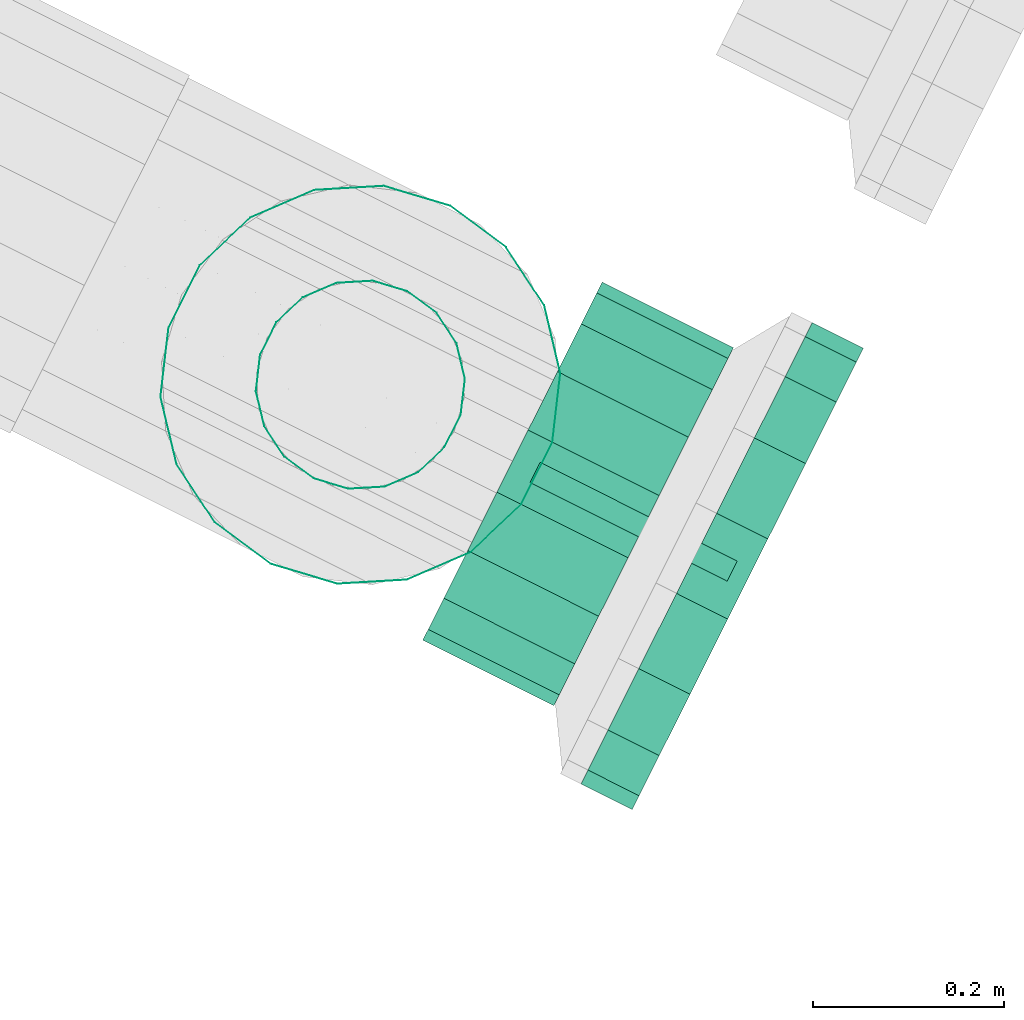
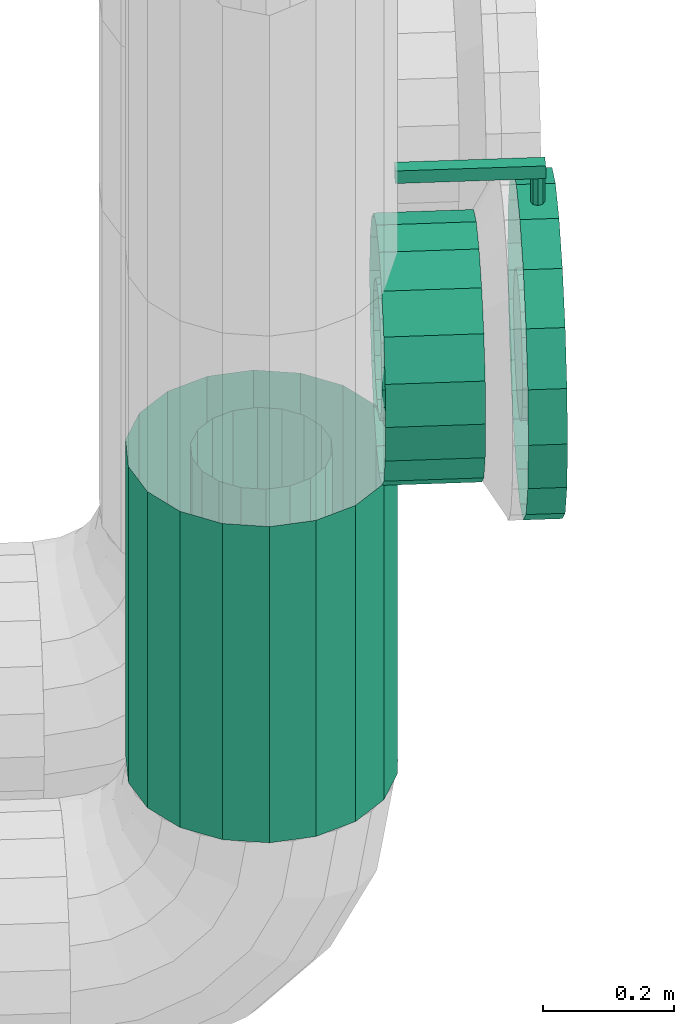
# One storey, part 7 of 11: 2 flow segments, 1 flow controller.
"""IFC2X3 building model written with IfcOpenShell, lengths in metres."""

from ifc_helpers import new_model, si_unit, derived_unit, direction, frame, origin, place, context, subcontext, project, spatial, face_set, surface_model, source, transform, mapped, material, type_object, type_shapes, element, save


model = new_model("IFC2X3")

# Units and contexts
model_context = context("Model", 3, precision=5.2338327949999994e-05, world=origin(), true_north=direction((0.0, 1.0)))
body_context = subcontext(model_context, "Body", "Model", "MODEL_VIEW")
ifc_project = project(units=[si_unit("LENGTHUNIT", "METRE"), si_unit("AREAUNIT", "SQUARE_METRE"), si_unit("VOLUMEUNIT", "CUBIC_METRE"), si_unit("MASSUNIT", "GRAM", prefix="KILO"), si_unit("PLANEANGLEUNIT", "RADIAN"), derived_unit("THERMALTRANSMITTANCEUNIT", [(si_unit("MASSUNIT", "GRAM", prefix="KILO"), 1), (si_unit("THERMODYNAMICTEMPERATUREUNIT", "KELVIN"), -1), (si_unit("TIMEUNIT", "SECOND"), -3)])], contexts=[model_context])

# Site, building, storey
site_placement = place(None, frame((0.0, 0.0, 0.0), z_axis=(0.0, 0.0, 1.0), x_axis=(0.8939966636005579, -0.4480736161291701, 0.0)))
site = spatial("IfcSite", under=ifc_project, at=site_placement, Name="Default", CompositionType="ELEMENT")
building_placement = place(site_placement, origin())
building = spatial("IfcBuilding", under=site, at=building_placement, CompositionType="ELEMENT")
storey_placement = place(building_placement, frame((0.0, 0.0, -2.7499999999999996)))
storey = spatial("IfcBuildingStorey", under=building, at=storey_placement, Name="1. Untergeschoss", CompositionType="ELEMENT", Elevation=-2.7499999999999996)

# Flow segment
ifc_material = material(Name="IfcSurfaceStyle #9317")
distribution_element_type_1 = type_object("IfcDistributionElementType", Name="Stahlrohr nach DIN 2448 860810:Stahlrohr nach DIN 2448 860810", material=ifc_material)
shared_shape_1 = source(origin(), body_context, "Body", "SurfaceModel", [
    surface_model("IfcFaceBasedSurfaceModel", [(0.9162699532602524, 7.436758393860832, -1.7739999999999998), (0.8788016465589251, 7.430151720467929, -1.7739999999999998), (0.8788016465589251, 7.430151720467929, -1.1831073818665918), (0.916269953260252, 7.436758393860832, -1.1831073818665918), (0.8458525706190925, 7.411128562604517, -1.7739999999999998), (0.845852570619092, 7.411128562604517, -1.1831073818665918), (0.821396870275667, 7.381983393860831, -1.7739999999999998), (0.821396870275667, 7.381983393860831, -1.1831073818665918), (0.8083842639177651, 7.346231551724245, -1.7739999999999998), (0.8083842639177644, 7.3462315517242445, -1.1831073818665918), (0.808384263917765, 7.3081852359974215, -1.7739999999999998), (0.808384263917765, 7.30818523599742, -1.1831073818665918), (0.8213968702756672, 7.272433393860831, -1.7739999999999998), (0.8213968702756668, 7.272433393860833, -1.1831073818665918), (0.8458525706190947, 7.243288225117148, -1.7739999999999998), (0.8458525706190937, 7.243288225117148, -1.1831073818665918), (0.8788016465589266, 7.224265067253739, -1.7739999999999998), (0.878801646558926, 7.224265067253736, -1.1831073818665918), (0.9162699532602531, 7.217658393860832, -1.7739999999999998), (0.9162699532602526, 7.21765839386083, -1.1831073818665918), (0.9537382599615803, 7.224265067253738, -1.7739999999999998), (0.9537382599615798, 7.224265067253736, -1.1831073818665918), (0.9866873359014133, 7.243288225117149, -1.7739999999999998), (0.9866873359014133, 7.243288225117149, -1.1831073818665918), (1.0111430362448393, 7.272433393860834, -1.7739999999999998), (1.0111430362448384, 7.272433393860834, -1.1831073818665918), (1.0241556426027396, 7.308185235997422, -1.7739999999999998), (1.0241556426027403, 7.3081852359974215, -1.1831073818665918), (1.02415564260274, 7.346231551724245, -1.7739999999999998), (1.02415564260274, 7.346231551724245, -1.1831073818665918), (1.0111430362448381, 7.381983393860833, -1.7739999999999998), (1.0111430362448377, 7.381983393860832, -1.1831073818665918), (0.9866873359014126, 7.411128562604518, -1.7739999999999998), (0.9866873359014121, 7.411128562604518, -1.1831073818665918), (0.953738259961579, 7.43015172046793, -1.7739999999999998), (0.953738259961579, 7.430151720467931, -1.1831073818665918), (0.9162699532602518, 7.536758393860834, -1.7739999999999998), (0.8445996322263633, 7.524120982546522, -1.7739999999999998), (0.8445996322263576, 7.52412098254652, -1.1831073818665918), (0.9162699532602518, 7.536758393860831, -1.1831073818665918), (0.7815738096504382, 7.487733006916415, -1.7739999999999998), (0.7815738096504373, 7.487733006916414, -1.1831073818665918), (0.7347943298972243, 7.43198339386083, -1.7739999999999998), (0.7347943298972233, 7.431983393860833, -1.1831073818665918), (0.7099034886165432, 7.363596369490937, -1.7739999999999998), (0.7099034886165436, 7.363596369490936, -1.1831073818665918), (0.7099034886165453, 7.290820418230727, -1.7739999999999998), (0.7099034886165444, 7.290820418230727, -1.1831073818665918), (0.7347943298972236, 7.2224333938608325, -1.7739999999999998), (0.7347943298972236, 7.222433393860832, -1.1831073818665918), (0.7815738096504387, 7.16668378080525, -1.7739999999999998), (0.7815738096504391, 7.16668378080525, -1.1831073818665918), (0.8445996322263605, 7.130295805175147, -1.7739999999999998), (0.8445996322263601, 7.1302958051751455, -1.1831073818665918), (0.9162699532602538, 7.117658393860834, -1.7739999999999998), (0.9162699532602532, 7.117658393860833, -1.1831073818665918), (0.987940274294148, 7.130295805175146, -1.7739999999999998), (0.9879402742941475, 7.130295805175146, -1.1831073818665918), (1.0509660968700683, 7.16668378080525, -1.7739999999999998), (1.050966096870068, 7.1666837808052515, -1.1831073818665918), (1.0977455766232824, 7.222433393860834, -1.7739999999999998), (1.0977455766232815, 7.222433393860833, -1.1831073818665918), (1.122636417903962, 7.290820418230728, -1.7739999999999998), (1.1226364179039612, 7.290820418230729, -1.1831073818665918), (1.1226364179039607, 7.363596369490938, -1.7739999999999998), (1.1226364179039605, 7.363596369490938, -1.1831073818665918), (1.097745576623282, 7.4319833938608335, -1.7739999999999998), (1.097745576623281, 7.4319833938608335, -1.1831073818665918), (1.0509660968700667, 7.487733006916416, -1.7739999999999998), (1.0509660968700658, 7.487733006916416, -1.1831073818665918), (0.987940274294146, 7.52412098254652, -1.7739999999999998), (0.9879402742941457, 7.52412098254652, -1.1831073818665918)], [face_set([[[0, 1, 2, 3]], [[1, 4, 5, 2]], [[4, 6, 7, 5]], [[6, 8, 9, 7]], [[8, 10, 11, 9]], [[10, 12, 13, 11]], [[12, 14, 15, 13]], [[14, 16, 17, 15]], [[16, 18, 19, 17]], [[18, 20, 21, 19]], [[20, 22, 23, 21]], [[22, 24, 25, 23]], [[24, 26, 27, 25]], [[26, 28, 29, 27]], [[28, 30, 31, 29]], [[30, 32, 33, 31]], [[32, 34, 35, 33]], [[34, 0, 3, 35]], [[36, 37, 38, 39]], [[37, 40, 41, 38]], [[40, 42, 43, 41]], [[42, 44, 45, 43]], [[44, 46, 47, 45]], [[46, 48, 49, 47]], [[48, 50, 51, 49]], [[50, 52, 53, 51]], [[52, 54, 55, 53]], [[54, 56, 57, 55]], [[56, 58, 59, 57]], [[58, 60, 61, 59]], [[60, 62, 63, 61]], [[62, 64, 65, 63]], [[64, 66, 67, 65]], [[66, 68, 69, 67]], [[68, 70, 71, 69]], [[70, 36, 39, 71]]])]),
])
type_shapes(distribution_element_type_1, [shared_shape_1])
flow_segment_1_placement = place(storey_placement, frame((0.0, 0.0, 2.7499999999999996)))
element("IfcFlowSegment", 1, at=flow_segment_1_placement, inside=storey, type_object=distribution_element_type_1, material=ifc_material, Name="Stahlrohr nach DIN 2448", ObjectType="Stahlrohr nach DIN 2448", context=body_context, shape_type="MappedRepresentation", body=[
    mapped(shared_shape_1, transform((0.0, 0.0, 0.0), scale=1.0)),
])

# Flow controller
distribution_element_type_2 = type_object("IfcDistributionElementType", Name="Zwischenflanschklappe 860856:Zwischenflanschklappe 860856", material=ifc_material)
shared_shape_2 = source(origin(), body_context, "Body", "SurfaceModel", [
    surface_model("IfcFaceBasedSurfaceModel", [(1.1205692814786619, 7.338958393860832, -0.6886073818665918), (1.3514192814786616, 7.338958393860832, -0.6886073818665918), (1.3514192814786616, 7.3154583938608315, -0.6886073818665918), (1.1205692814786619, 7.3154583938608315, -0.6886073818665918), (1.3514192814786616, 7.3154583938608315, -0.6651073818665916), (1.1205692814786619, 7.3154583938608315, -0.6651073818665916), (1.3514192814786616, 7.338958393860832, -0.6651073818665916), (1.1205692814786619, 7.338958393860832, -0.6651073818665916), (1.3096692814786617, 7.209708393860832, -1.0051073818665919), (1.3096692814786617, 7.216794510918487, -1.045294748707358), (1.3296692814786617, 7.216794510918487, -1.045294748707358), (1.3296692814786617, 7.209708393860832, -1.0051073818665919), (1.3096692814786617, 7.237198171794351, -1.0806349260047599), (1.3296692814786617, 7.237198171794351, -1.0806349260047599), (1.3096692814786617, 7.268458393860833, -1.106865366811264), (1.3296692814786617, 7.268458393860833, -1.106865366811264), (1.3096692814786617, 7.3068047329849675, -1.1208222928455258), (1.3296692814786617, 7.3068047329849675, -1.1208222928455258), (1.3096692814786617, 7.347612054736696, -1.120822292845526), (1.3296692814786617, 7.347612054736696, -1.120822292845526), (1.3096692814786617, 7.385958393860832, -1.106865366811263), (1.3296692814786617, 7.385958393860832, -1.106865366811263), (1.3096692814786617, 7.417218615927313, -1.0806349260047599), (1.3296692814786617, 7.417218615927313, -1.0806349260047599), (1.3096692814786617, 7.437622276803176, -1.0452947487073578), (1.3296692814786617, 7.437622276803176, -1.0452947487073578), (1.3096692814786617, 7.444708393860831, -1.0051073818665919), (1.3296692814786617, 7.444708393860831, -1.0051073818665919), (1.3096692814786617, 7.437622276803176, -0.9649200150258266), (1.3296692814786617, 7.437622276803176, -0.9649200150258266), (1.3096692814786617, 7.417218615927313, -0.9295798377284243), (1.3296692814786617, 7.417218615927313, -0.9295798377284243), (1.3096692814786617, 7.385958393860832, -0.9033493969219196), (1.3296692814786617, 7.385958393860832, -0.9033493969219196), (1.3096692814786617, 7.347612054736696, -0.8893924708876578), (1.3296692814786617, 7.347612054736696, -0.8893924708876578), (1.3096692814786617, 7.3068047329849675, -0.8893924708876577), (1.3296692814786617, 7.3068047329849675, -0.8893924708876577), (1.3096692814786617, 7.268458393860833, -0.9033493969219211), (1.3296692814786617, 7.268458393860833, -0.9033493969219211), (1.3096692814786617, 7.237198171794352, -0.9295798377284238), (1.3296692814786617, 7.237198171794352, -0.9295798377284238), (1.3096692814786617, 7.216794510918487, -0.9649200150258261), (1.3296692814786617, 7.216794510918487, -0.9649200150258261), (1.3096692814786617, 7.327208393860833, -1.0051073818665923), (1.3296692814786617, 7.327208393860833, -1.0051073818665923), (1.3296692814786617, 7.157208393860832, -1.0051073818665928), (1.3296692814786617, 7.167460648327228, -1.0632508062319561), (1.3496692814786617, 7.167460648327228, -1.0632508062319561), (1.3496692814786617, 7.157208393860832, -1.0051073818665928), (1.3296692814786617, 7.196980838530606, -1.114381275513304), (1.3496692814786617, 7.196980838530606, -1.114381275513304), (1.3296692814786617, 7.242208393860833, -1.152331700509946), (1.3496692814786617, 7.242208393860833, -1.152331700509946), (1.3296692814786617, 7.297688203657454, -1.1725246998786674), (1.3496692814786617, 7.297688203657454, -1.1725246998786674), (1.3296692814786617, 7.356728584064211, -1.1725246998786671), (1.3496692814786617, 7.356728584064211, -1.1725246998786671), (1.3296692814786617, 7.4122083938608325, -1.1523317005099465), (1.3496692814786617, 7.4122083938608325, -1.1523317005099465), (1.3296692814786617, 7.457435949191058, -1.114381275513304), (1.3496692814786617, 7.457435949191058, -1.114381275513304), (1.3296692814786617, 7.4869561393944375, -1.063250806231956), (1.3496692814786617, 7.4869561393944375, -1.063250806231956), (1.3296692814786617, 7.497208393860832, -1.0051073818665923), (1.3496692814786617, 7.497208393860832, -1.0051073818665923), (1.3296692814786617, 7.4869561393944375, -0.9469639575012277), (1.3496692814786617, 7.4869561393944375, -0.9469639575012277), (1.3296692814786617, 7.457435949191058, -0.8958334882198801), (1.3496692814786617, 7.457435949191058, -0.8958334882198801), (1.3296692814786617, 7.4122083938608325, -0.8578830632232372), (1.3496692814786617, 7.4122083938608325, -0.8578830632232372), (1.3296692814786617, 7.356728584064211, -0.8376900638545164), (1.3496692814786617, 7.356728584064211, -0.8376900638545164), (1.3296692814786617, 7.297688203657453, -0.8376900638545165), (1.3496692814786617, 7.297688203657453, -0.8376900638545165), (1.3296692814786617, 7.242208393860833, -0.8578830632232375), (1.3496692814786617, 7.242208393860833, -0.8578830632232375), (1.3296692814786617, 7.196980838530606, -0.895833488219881), (1.3496692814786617, 7.196980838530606, -0.895833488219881), (1.3296692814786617, 7.167460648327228, -0.9469639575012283), (1.3496692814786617, 7.167460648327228, -0.9469639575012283), (1.3496692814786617, 7.327208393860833, -1.0051073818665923), (1.3496692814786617, 7.209708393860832, -1.0051073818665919), (1.3496692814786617, 7.216794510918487, -1.045294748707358), (1.3696692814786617, 7.216794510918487, -1.045294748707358), (1.3696692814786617, 7.209708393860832, -1.0051073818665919), (1.3496692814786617, 7.237198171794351, -1.0806349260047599), (1.3696692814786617, 7.237198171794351, -1.0806349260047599), (1.3496692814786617, 7.268458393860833, -1.106865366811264), (1.3696692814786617, 7.268458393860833, -1.106865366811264), (1.3496692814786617, 7.3068047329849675, -1.1208222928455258), (1.3696692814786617, 7.3068047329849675, -1.1208222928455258), (1.3496692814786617, 7.347612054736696, -1.120822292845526), (1.3696692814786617, 7.347612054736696, -1.120822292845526), (1.3496692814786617, 7.385958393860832, -1.106865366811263), (1.3696692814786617, 7.385958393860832, -1.106865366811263), (1.3496692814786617, 7.417218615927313, -1.0806349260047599), (1.3696692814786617, 7.417218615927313, -1.0806349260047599), (1.3496692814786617, 7.437622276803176, -1.0452947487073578), (1.3696692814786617, 7.437622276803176, -1.0452947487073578), (1.3496692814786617, 7.444708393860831, -1.0051073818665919), (1.3696692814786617, 7.444708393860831, -1.0051073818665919), (1.3496692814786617, 7.437622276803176, -0.9649200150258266), (1.3696692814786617, 7.437622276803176, -0.9649200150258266), (1.3496692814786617, 7.417218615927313, -0.9295798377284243), (1.3696692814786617, 7.417218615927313, -0.9295798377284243), (1.3496692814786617, 7.385958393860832, -0.9033493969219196), (1.3696692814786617, 7.385958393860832, -0.9033493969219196), (1.3496692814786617, 7.347612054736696, -0.8893924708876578), (1.3696692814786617, 7.347612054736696, -0.8893924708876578), (1.3496692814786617, 7.3068047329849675, -0.8893924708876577), (1.3696692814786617, 7.3068047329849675, -0.8893924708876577), (1.3496692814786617, 7.268458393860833, -0.9033493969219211), (1.3696692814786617, 7.268458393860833, -0.9033493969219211), (1.3496692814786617, 7.237198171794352, -0.9295798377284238), (1.3696692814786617, 7.237198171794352, -0.9295798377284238), (1.3496692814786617, 7.216794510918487, -0.9649200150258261), (1.3696692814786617, 7.216794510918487, -0.9649200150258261), (1.3696692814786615, 7.327208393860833, -1.0051073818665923), (1.339669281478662, 7.317208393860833, -1.0051073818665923), (1.3430894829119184, 7.317811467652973, -1.0051073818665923), (1.3430894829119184, 7.317811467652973, -0.7618573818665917), (1.339669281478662, 7.317208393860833, -0.7618573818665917), (1.3460971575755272, 7.3195479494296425, -1.0051073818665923), (1.3460971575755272, 7.3195479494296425, -0.7618573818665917), (1.3483295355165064, 7.322208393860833, -1.0051073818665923), (1.3483295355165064, 7.322208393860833, -0.7618573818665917), (1.3495173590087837, 7.325471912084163, -1.0051073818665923), (1.3495173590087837, 7.325471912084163, -0.7618573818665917), (1.349517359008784, 7.328944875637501, -1.0051073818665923), (1.349517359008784, 7.328944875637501, -0.7618573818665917), (1.3483295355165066, 7.3322083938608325, -1.0051073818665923), (1.3483295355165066, 7.3322083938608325, -0.7618573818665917), (1.3460971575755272, 7.334868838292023, -1.0051073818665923), (1.3460971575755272, 7.334868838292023, -0.7618573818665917), (1.3430894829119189, 7.33660532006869, -1.0051073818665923), (1.3430894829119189, 7.33660532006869, -0.7618573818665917), (1.339669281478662, 7.337208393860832, -1.0051073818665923), (1.339669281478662, 7.337208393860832, -0.7618573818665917), (1.336249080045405, 7.33660532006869, -1.0051073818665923), (1.336249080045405, 7.33660532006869, -0.7618573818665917), (1.3332414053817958, 7.334868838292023, -1.0051073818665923), (1.3332414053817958, 7.334868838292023, -0.7618573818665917), (1.3310090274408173, 7.3322083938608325, -1.0051073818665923), (1.3310090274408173, 7.3322083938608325, -0.7618573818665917), (1.3298212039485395, 7.328944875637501, -1.0051073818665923), (1.3298212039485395, 7.328944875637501, -0.7618573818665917), (1.3298212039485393, 7.325471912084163, -1.0051073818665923), (1.3298212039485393, 7.325471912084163, -0.7618573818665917), (1.331009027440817, 7.322208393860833, -1.0051073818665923), (1.331009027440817, 7.322208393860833, -0.7618573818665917), (1.333241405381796, 7.3195479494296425, -1.0051073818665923), (1.333241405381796, 7.3195479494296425, -0.7618573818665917), (1.336249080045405, 7.317811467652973, -1.0051073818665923), (1.336249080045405, 7.317811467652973, -0.7618573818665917), (1.339669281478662, 7.327208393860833, -1.005107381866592), (1.339669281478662, 7.327208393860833, -0.7618573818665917), (1.339669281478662, 7.316253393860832, -0.7618573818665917), (1.3474156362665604, 7.319462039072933, -0.7618573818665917), (1.3474156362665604, 7.319462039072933, -0.6886073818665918), (1.339669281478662, 7.316253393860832, -0.6886073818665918), (1.3506242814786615, 7.327208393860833, -0.7618573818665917), (1.3506242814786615, 7.327208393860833, -0.6886073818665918), (1.3474156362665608, 7.33495474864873, -0.7618573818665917), (1.3474156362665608, 7.33495474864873, -0.6886073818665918), (1.339669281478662, 7.338163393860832, -0.7618573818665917), (1.339669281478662, 7.338163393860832, -0.6886073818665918), (1.3319229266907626, 7.33495474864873, -0.7618573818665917), (1.3319229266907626, 7.33495474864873, -0.6886073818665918), (1.3287142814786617, 7.327208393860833, -0.7618573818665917), (1.3287142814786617, 7.327208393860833, -0.6886073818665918), (1.3319229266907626, 7.319462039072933, -0.7618573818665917), (1.3319229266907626, 7.319462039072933, -0.6886073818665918), (1.339669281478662, 7.327208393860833, -0.6886073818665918), (1.3096692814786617, 7.057208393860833, -1.0051073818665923), (1.3096692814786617, 7.073491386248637, -1.0974528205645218), (1.3696692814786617, 7.073491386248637, -1.0974528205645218), (1.3696692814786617, 7.057208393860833, -1.0051073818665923), (1.3096692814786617, 7.120376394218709, -1.1786600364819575), (1.3696692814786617, 7.120376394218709, -1.1786600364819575), (1.3096692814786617, 7.192208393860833, -1.2389342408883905), (1.3696692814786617, 7.192208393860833, -1.2389342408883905), (1.3096692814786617, 7.28032338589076, -1.2710054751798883), (1.3696692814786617, 7.28032338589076, -1.2710054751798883), (1.3096692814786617, 7.374093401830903, -1.271005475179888), (1.3696692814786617, 7.374093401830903, -1.271005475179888), (1.3096692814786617, 7.462208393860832, -1.2389342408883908), (1.3696692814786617, 7.462208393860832, -1.2389342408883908), (1.3096692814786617, 7.534040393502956, -1.1786600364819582), (1.3696692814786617, 7.534040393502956, -1.1786600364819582), (1.3096692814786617, 7.580925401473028, -1.097452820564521), (1.3696692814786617, 7.580925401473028, -1.097452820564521), (1.3096692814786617, 7.597208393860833, -1.0051073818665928), (1.3696692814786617, 7.597208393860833, -1.0051073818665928), (1.3096692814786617, 7.580925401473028, -0.9127619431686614), (1.3696692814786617, 7.580925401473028, -0.9127619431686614), (1.3096692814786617, 7.534040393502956, -0.8315547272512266), (1.3696692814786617, 7.534040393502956, -0.8315547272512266), (1.3096692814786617, 7.462208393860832, -0.7712805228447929), (1.3696692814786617, 7.462208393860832, -0.7712805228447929), (1.3096692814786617, 7.374093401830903, -0.7392092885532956), (1.3696692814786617, 7.374093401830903, -0.7392092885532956), (1.3096692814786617, 7.28032338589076, -0.7392092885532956), (1.3696692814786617, 7.28032338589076, -0.7392092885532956), (1.3096692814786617, 7.192208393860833, -0.771280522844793), (1.3696692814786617, 7.192208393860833, -0.771280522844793), (1.3096692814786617, 7.120376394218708, -0.831554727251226), (1.3696692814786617, 7.120376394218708, -0.831554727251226), (1.3096692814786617, 7.073491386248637, -0.912761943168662), (1.3696692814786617, 7.073491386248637, -0.912761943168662)], [face_set([[[0, 1, 2, 3]], [[3, 2, 4, 5]], [[5, 4, 6, 7]], [[7, 6, 1, 0]], [[0, 3, 5, 7]], [[6, 4, 2, 1]], [[8, 9, 10, 11]], [[9, 12, 13, 10]], [[12, 14, 15, 13]], [[14, 16, 17, 15]], [[16, 18, 19, 17]], [[18, 20, 21, 19]], [[20, 22, 23, 21]], [[22, 24, 25, 23]], [[24, 26, 27, 25]], [[26, 28, 29, 27]], [[28, 30, 31, 29]], [[30, 32, 33, 31]], [[32, 34, 35, 33]], [[34, 36, 37, 35]], [[36, 38, 39, 37]], [[38, 40, 41, 39]], [[40, 42, 43, 41]], [[42, 8, 11, 43]], [[44, 9, 8]], [[44, 12, 9]], [[44, 14, 12]], [[44, 16, 14]], [[44, 18, 16]], [[44, 20, 18]], [[44, 22, 20]], [[44, 24, 22]], [[44, 26, 24]], [[44, 28, 26]], [[44, 30, 28]], [[44, 32, 30]], [[44, 34, 32]], [[44, 36, 34]], [[44, 38, 36]], [[44, 40, 38]], [[44, 42, 40]], [[44, 8, 42]], [[45, 43, 11]], [[45, 41, 43]], [[45, 39, 41]], [[45, 37, 39]], [[45, 35, 37]], [[45, 33, 35]], [[45, 31, 33]], [[45, 29, 31]], [[45, 27, 29]], [[45, 25, 27]], [[45, 23, 25]], [[45, 21, 23]], [[45, 19, 21]], [[45, 17, 19]], [[45, 15, 17]], [[45, 13, 15]], [[45, 10, 13]], [[45, 11, 10]], [[46, 47, 48, 49]], [[47, 50, 51, 48]], [[50, 52, 53, 51]], [[52, 54, 55, 53]], [[54, 56, 57, 55]], [[56, 58, 59, 57]], [[58, 60, 61, 59]], [[60, 62, 63, 61]], [[62, 64, 65, 63]], [[64, 66, 67, 65]], [[66, 68, 69, 67]], [[68, 70, 71, 69]], [[70, 72, 73, 71]], [[72, 74, 75, 73]], [[74, 76, 77, 75]], [[76, 78, 79, 77]], [[78, 80, 81, 79]], [[80, 46, 49, 81]], [[45, 47, 46]], [[45, 50, 47]], [[45, 52, 50]], [[45, 54, 52]], [[45, 56, 54]], [[45, 58, 56]], [[45, 60, 58]], [[45, 62, 60]], [[45, 64, 62]], [[45, 66, 64]], [[45, 68, 66]], [[45, 70, 68]], [[45, 72, 70]], [[45, 74, 72]], [[45, 76, 74]], [[45, 78, 76]], [[45, 80, 78]], [[45, 46, 80]], [[82, 81, 49]], [[82, 79, 81]], [[82, 77, 79]], [[82, 75, 77]], [[82, 73, 75]], [[82, 71, 73]], [[82, 69, 71]], [[82, 67, 69]], [[82, 65, 67]], [[82, 63, 65]], [[82, 61, 63]], [[82, 59, 61]], [[82, 57, 59]], [[82, 55, 57]], [[82, 53, 55]], [[82, 51, 53]], [[82, 48, 51]], [[82, 49, 48]], [[83, 84, 85, 86]], [[84, 87, 88, 85]], [[87, 89, 90, 88]], [[89, 91, 92, 90]], [[91, 93, 94, 92]], [[93, 95, 96, 94]], [[95, 97, 98, 96]], [[97, 99, 100, 98]], [[99, 101, 102, 100]], [[101, 103, 104, 102]], [[103, 105, 106, 104]], [[105, 107, 108, 106]], [[107, 109, 110, 108]], [[109, 111, 112, 110]], [[111, 113, 114, 112]], [[113, 115, 116, 114]], [[115, 117, 118, 116]], [[117, 83, 86, 118]], [[82, 84, 83]], [[82, 87, 84]], [[82, 89, 87]], [[82, 91, 89]], [[82, 93, 91]], [[82, 95, 93]], [[82, 97, 95]], [[82, 99, 97]], [[82, 101, 99]], [[82, 103, 101]], [[82, 105, 103]], [[82, 107, 105]], [[82, 109, 107]], [[82, 111, 109]], [[82, 113, 111]], [[82, 115, 113]], [[82, 117, 115]], [[82, 83, 117]], [[119, 118, 86]], [[119, 116, 118]], [[119, 114, 116]], [[119, 112, 114]], [[119, 110, 112]], [[119, 108, 110]], [[119, 106, 108]], [[119, 104, 106]], [[119, 102, 104]], [[119, 100, 102]], [[119, 98, 100]], [[119, 96, 98]], [[119, 94, 96]], [[119, 92, 94]], [[119, 90, 92]], [[119, 88, 90]], [[119, 85, 88]], [[119, 86, 85]], [[120, 121, 122, 123]], [[121, 124, 125, 122]], [[124, 126, 127, 125]], [[126, 128, 129, 127]], [[128, 130, 131, 129]], [[130, 132, 133, 131]], [[132, 134, 135, 133]], [[134, 136, 137, 135]], [[136, 138, 139, 137]], [[138, 140, 141, 139]], [[140, 142, 143, 141]], [[142, 144, 145, 143]], [[144, 146, 147, 145]], [[146, 148, 149, 147]], [[148, 150, 151, 149]], [[150, 152, 153, 151]], [[152, 154, 155, 153]], [[154, 120, 123, 155]], [[156, 121, 120]], [[156, 124, 121]], [[156, 126, 124]], [[156, 128, 126]], [[156, 130, 128]], [[156, 132, 130]], [[156, 134, 132]], [[156, 136, 134]], [[156, 138, 136]], [[156, 140, 138]], [[156, 142, 140]], [[156, 144, 142]], [[156, 146, 144]], [[156, 148, 146]], [[156, 150, 148]], [[156, 152, 150]], [[156, 154, 152]], [[156, 120, 154]], [[157, 155, 123]], [[157, 153, 155]], [[157, 151, 153]], [[157, 149, 151]], [[157, 147, 149]], [[157, 145, 147]], [[157, 143, 145]], [[157, 141, 143]], [[157, 139, 141]], [[157, 137, 139]], [[157, 135, 137]], [[157, 133, 135]], [[157, 131, 133]], [[157, 129, 131]], [[157, 127, 129]], [[157, 125, 127]], [[157, 122, 125]], [[157, 123, 122]], [[158, 159, 160, 161]], [[159, 162, 163, 160]], [[162, 164, 165, 163]], [[164, 166, 167, 165]], [[166, 168, 169, 167]], [[168, 170, 171, 169]], [[170, 172, 173, 171]], [[172, 158, 161, 173]], [[174, 173, 161]], [[174, 171, 173]], [[174, 169, 171]], [[174, 167, 169]], [[174, 165, 167]], [[174, 163, 165]], [[174, 160, 163]], [[174, 161, 160]], [[175, 176, 177, 178]], [[176, 179, 180, 177]], [[179, 181, 182, 180]], [[181, 183, 184, 182]], [[183, 185, 186, 184]], [[185, 187, 188, 186]], [[187, 189, 190, 188]], [[189, 191, 192, 190]], [[191, 193, 194, 192]], [[193, 195, 196, 194]], [[195, 197, 198, 196]], [[197, 199, 200, 198]], [[199, 201, 202, 200]], [[201, 203, 204, 202]], [[203, 205, 206, 204]], [[205, 207, 208, 206]], [[207, 209, 210, 208]], [[209, 175, 178, 210]]])]),
])
type_shapes(distribution_element_type_2, [shared_shape_2])
flow_controller_placement = place(storey_placement, frame((0.0, 0.0, 2.7499999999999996)))
element("IfcFlowController", 2, at=flow_controller_placement, inside=storey, type_object=distribution_element_type_2, material=ifc_material, Name="Zwischenflanschklappe", ObjectType="Zwischenflanschklappe", context=body_context, shape_type="MappedRepresentation", body=[
    mapped(shared_shape_2, transform((0.0, 0.0, 0.0), scale=1.0)),
])

# Flow segment
distribution_element_type_3 = type_object("IfcDistributionElementType", Name="Stahlrohr nach DIN 2448 860879:Stahlrohr nach DIN 2448 860879", material=ifc_material)
shared_shape_3 = source(origin(), body_context, "Body", "SurfaceModel", [
    surface_model("IfcFaceBasedSurfaceModel", [(1.094269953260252, 7.436758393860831, -1.0051073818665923), (1.094269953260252, 7.430151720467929, -0.9676390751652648), (1.2476692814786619, 7.43015172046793, -0.9676390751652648), (1.2476692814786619, 7.436758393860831, -1.005107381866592), (1.094269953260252, 7.411128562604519, -0.9346899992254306), (1.2476692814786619, 7.411128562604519, -0.9346899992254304), (1.094269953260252, 7.381983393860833, -0.9102342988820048), (1.2476692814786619, 7.381983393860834, -0.9102342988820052), (1.094269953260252, 7.346231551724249, -0.8972216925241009), (1.2476692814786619, 7.346231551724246, -0.897221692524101), (1.094269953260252, 7.308185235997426, -0.8972216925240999), (1.2476692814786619, 7.308185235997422, -0.8972216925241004), (1.094269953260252, 7.272433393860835, -0.9102342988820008), (1.2476692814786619, 7.272433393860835, -0.910234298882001), (1.094269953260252, 7.243288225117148, -0.9346899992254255), (1.2476692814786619, 7.243288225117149, -0.9346899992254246), (1.094269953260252, 7.224265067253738, -0.967639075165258), (1.2476692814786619, 7.224265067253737, -0.9676390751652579), (1.094269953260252, 7.21765839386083, -1.0051073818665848), (1.2476692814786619, 7.21765839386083, -1.005107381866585), (1.094269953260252, 7.224265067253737, -1.0425756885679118), (1.2476692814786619, 7.224265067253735, -1.042575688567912), (1.094269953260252, 7.243288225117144, -1.075524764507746), (1.2476692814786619, 7.243288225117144, -1.075524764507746), (1.094269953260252, 7.272433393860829, -1.0999804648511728), (1.2476692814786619, 7.272433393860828, -1.0999804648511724), (1.094269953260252, 7.308185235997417, -1.1129930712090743), (1.2476692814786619, 7.308185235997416, -1.1129930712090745), (1.094269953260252, 7.346231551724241, -1.1129930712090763), (1.2476692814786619, 7.34623155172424, -1.1129930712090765), (1.094269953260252, 7.3819833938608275, -1.0999804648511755), (1.2476692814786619, 7.3819833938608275, -1.099980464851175), (1.094269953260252, 7.411128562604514, -1.075524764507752), (1.2476692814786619, 7.411128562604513, -1.075524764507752), (1.094269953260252, 7.430151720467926, -1.042575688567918), (1.2476692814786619, 7.4301517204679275, -1.0425756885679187), (1.094269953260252, 7.536758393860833, -1.0051073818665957), (1.094269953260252, 7.524120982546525, -0.9334370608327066), (1.2476692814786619, 7.524120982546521, -0.9334370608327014), (1.2476692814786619, 7.53675839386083, -1.0051073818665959), (1.094269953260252, 7.48773300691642, -0.8704112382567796), (1.2476692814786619, 7.487733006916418, -0.8704112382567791), (1.094269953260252, 7.431983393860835, -0.823631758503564), (1.2476692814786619, 7.431983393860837, -0.8236317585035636), (1.094269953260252, 7.363596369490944, -0.7987409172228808), (1.2476692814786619, 7.363596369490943, -0.7987409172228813), (1.094269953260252, 7.290820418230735, -0.7987409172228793), (1.2476692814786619, 7.290820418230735, -0.798740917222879), (1.094269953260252, 7.222433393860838, -0.8236317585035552), (1.2476692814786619, 7.222433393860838, -0.8236317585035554), (1.094269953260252, 7.166683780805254, -0.8704112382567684), (1.2476692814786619, 7.166683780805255, -0.8704112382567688), (1.094269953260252, 7.130295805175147, -0.933437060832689), (1.2476692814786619, 7.130295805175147, -0.9334370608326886), (1.094269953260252, 7.117658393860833, -1.0051073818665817), (1.2476692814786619, 7.117658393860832, -1.0051073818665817), (1.094269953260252, 7.130295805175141, -1.076777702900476), (1.2476692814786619, 7.130295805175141, -1.076777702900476), (1.094269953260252, 7.1666837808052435, -1.1398035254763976), (1.2476692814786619, 7.166683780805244, -1.1398035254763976), (1.094269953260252, 7.222433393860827, -1.186583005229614), (1.2476692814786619, 7.222433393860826, -1.1865830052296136), (1.094269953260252, 7.2908204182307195, -1.211473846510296), (1.2476692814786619, 7.2908204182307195, -1.2114738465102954), (1.094269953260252, 7.363596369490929, -1.2114738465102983), (1.2476692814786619, 7.3635963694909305, -1.2114738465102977), (1.094269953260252, 7.431983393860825, -1.1865830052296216), (1.2476692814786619, 7.431983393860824, -1.1865830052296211), (1.094269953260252, 7.487733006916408, -1.1398035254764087), (1.2476692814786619, 7.487733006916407, -1.1398035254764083), (1.094269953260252, 7.524120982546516, -1.0767777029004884), (1.2476692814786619, 7.524120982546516, -1.0767777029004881)], [face_set([[[0, 1, 2, 3]], [[1, 4, 5, 2]], [[4, 6, 7, 5]], [[6, 8, 9, 7]], [[8, 10, 11, 9]], [[10, 12, 13, 11]], [[12, 14, 15, 13]], [[14, 16, 17, 15]], [[16, 18, 19, 17]], [[18, 20, 21, 19]], [[20, 22, 23, 21]], [[22, 24, 25, 23]], [[24, 26, 27, 25]], [[26, 28, 29, 27]], [[28, 30, 31, 29]], [[30, 32, 33, 31]], [[32, 34, 35, 33]], [[34, 0, 3, 35]], [[36, 37, 38, 39]], [[37, 40, 41, 38]], [[40, 42, 43, 41]], [[42, 44, 45, 43]], [[44, 46, 47, 45]], [[46, 48, 49, 47]], [[48, 50, 51, 49]], [[50, 52, 53, 51]], [[52, 54, 55, 53]], [[54, 56, 57, 55]], [[56, 58, 59, 57]], [[58, 60, 61, 59]], [[60, 62, 63, 61]], [[62, 64, 65, 63]], [[64, 66, 67, 65]], [[66, 68, 69, 67]], [[68, 70, 71, 69]], [[70, 36, 39, 71]]])]),
])
type_shapes(distribution_element_type_3, [shared_shape_3])
flow_segment_2_placement = place(storey_placement, frame((0.0, 0.0, 2.7499999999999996)))
element("IfcFlowSegment", 3, at=flow_segment_2_placement, inside=storey, type_object=distribution_element_type_3, material=ifc_material, Name="Stahlrohr nach DIN 2448", ObjectType="Stahlrohr nach DIN 2448", context=body_context, shape_type="MappedRepresentation", body=[
    mapped(shared_shape_3, transform((0.0, 0.0, 0.0), scale=1.0)),
])

save(model, "model.ifc")
